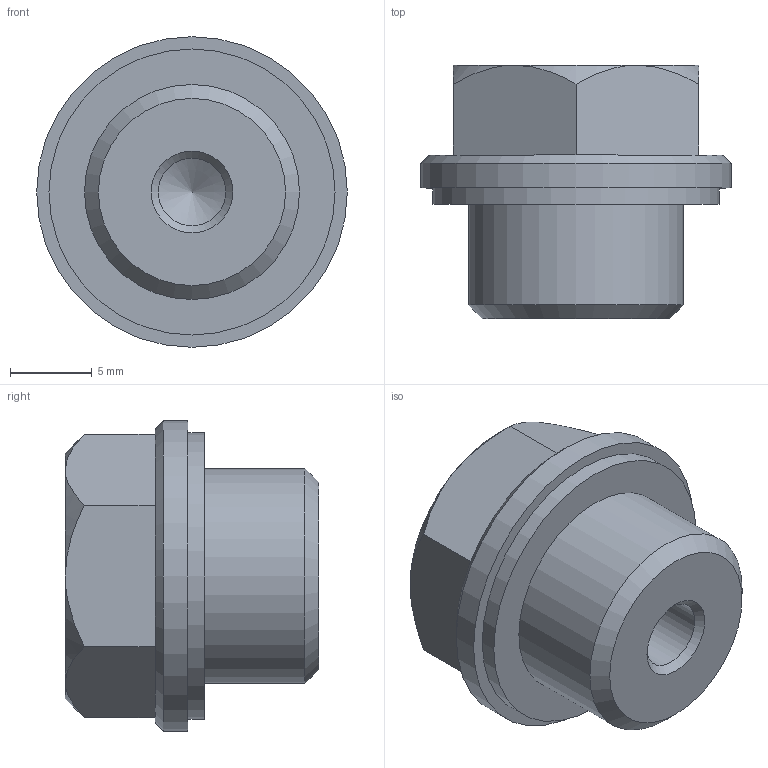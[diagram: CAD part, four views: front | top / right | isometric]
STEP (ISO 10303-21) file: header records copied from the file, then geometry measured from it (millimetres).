
FILE_DESCRIPTION( ( 'STEP AP203' ), '1' );
FILE_NAME( 'C:/Temp/Ganter_Step_05_03_2020/data/3_5/gn742/gn742_1/Threaded plug GN 742-19-G1_4-OSS-1.stp', '2020-03-12T13:39:15', ( 'License CC BY-ND 4.0' ), ( 'CADENAS' ), ' ', 'PARTsolutions', ' ' );
FILE_SCHEMA( ( 'CONFIG_CONTROL_DESIGN' ) );
Length unit declared in the file: millimetre
Products named in the file (1): _Threaded plug GN 742-19-G1/4-OSS-1
Bounding box: 19 x 15.5 x 19 mm (x, y, z)
Volume: 2635.1 mm3; surface area: 1418.8 mm2
Topology: 1 solids, 1 shells, 25 faces, 50 edges, 30 vertices
Faces by surface type: plane 11, cone 10, cylinder 4
Full cylindrical faces by diameter (mm): 4.134 x1, 13.157 x1, 17.5 x1, 19 x1
Entity records: 696 total; most frequent: CARTESIAN_POINT 177, DIRECTION 98, ORIENTED_EDGE 82, AXIS2_PLACEMENT_3D 43, EDGE_CURVE 41, EDGE_LOOP 36, VERTEX_POINT 30, FACE_OUTER_BOUND 29
